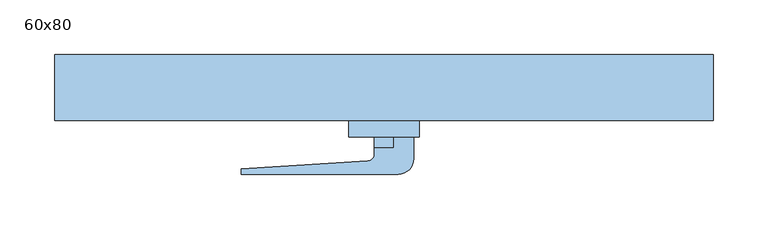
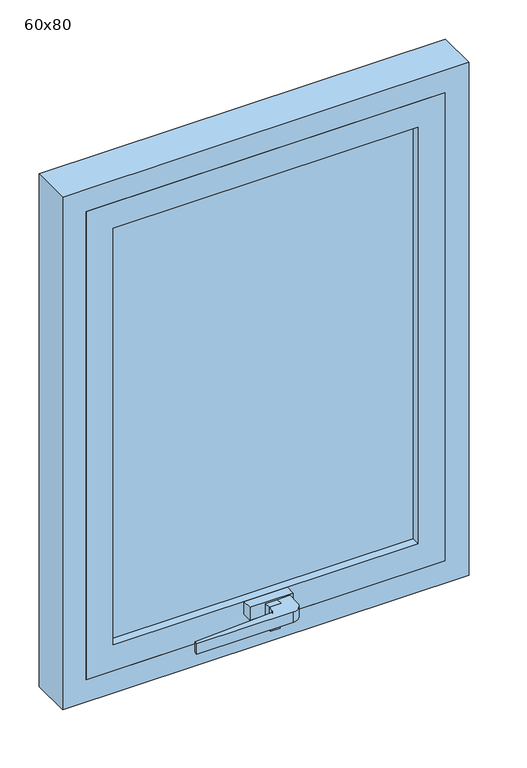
"""IFC4 building model written with IfcOpenShell, lengths in millimetres: window geometry, Janela Maxim-ar : 60x80."""

from ifc_helpers import new_model, si_unit, point, frame, frame_2d, origin, place, context, project, spatial, polyline, circle_curve, trimmed, segment, composite_curve, outline, extrude, source, transform, mapped, element, save


def window_60x80_c8c25e1d(model_context):
    return source(origin(), model_context, "Body", "SweptSolid", [
        extrude(outline(composite_curve([segment(polyline([(9.0, -28.0), (9.0, -18.0), (27.0, -18.0), (27.0, -38.0)]), True, "CONTINUOUS"), segment(trimmed(circle_curve(frame_2d((13.0, -38.0)), 14.0), [point((27.0, -38.0))], [point((13.0, -52.0))], False, "CARTESIAN"), True, "CONTINUOUS"), segment(polyline([(13.0, -52.0), (-130.0, -52.0), (-130.0, -47.0), (-14.6705919, -39.9888756)]), True, "CONTINUOUS"), segment(trimmed(circle_curve(frame_2d((-15.0369126, -33.9630874)), 6.0369126), [point((-14.6705919, -39.9888756))], [point((-9.0, -33.9630874))], True, "CARTESIAN"), True, "CONTINUOUS"), segment(polyline([(-9.0, -33.9630874), (-9.0, -28.0), (9.0, -28.0)]), True, "CONTINUOUS")], self_intersect=False)), frame((0.0, 0.0, 707.0), z_axis=(0.0, 0.0, 1.0), x_axis=(1.0, 0.0, 0.0)), (0.0, 0.0, 1.0), 16.0),
        extrude(outline(polyline([(723.0, 9.0), (723.0, -9.0), (703.0135985, -9.0), (685.0, -6.9842809), (685.0, 7.0348924), (703.0135985, 9.0), (723.0, 9.0)])), frame((0.0, -28.0, 0.0), z_axis=(0.0, 1.0, 0.0), x_axis=(0.0, 0.0, 1.0)), (0.0, 0.0, 1.0), 10.0),
        extrude(outline(polyline([(32.0, -18.0), (-32.0, -18.0), (-32.0, -3.0), (32.0, -3.0), (32.0, -18.0)])), frame((0.0, 0.0, 705.0), z_axis=(0.0, 0.0, 1.0), x_axis=(1.0, 0.0, 0.0)), (0.0, 0.0, 1.0), 20.0),
        extrude(outline(polyline([(225.0, 24.0), (225.0, 10.0), (-225.0, 10.0), (-225.0, 24.0), (225.0, 24.0)])), frame((0.0, 0.0, 725.0), z_axis=(0.0, 0.0, 1.0), x_axis=(1.0, 0.0, 0.0)), (0.0, 0.0, 1.0), 650.0),
        extrude(outline(polyline([(685.0, -265.0), (685.0, 265.0), (1415.0, 265.0), (1415.0, -265.0), (685.0, -265.0)]), holes=[polyline([(1375.0, -225.0), (1375.0, 225.0), (725.0, 225.0), (725.0, -225.0), (1375.0, -225.0)])]), frame((0.0, -3.0, 0.0), z_axis=(0.0, 1.0, 0.0), x_axis=(0.0, 0.0, 1.0)), (0.0, 0.0, 1.0), 40.0),
        extrude(outline(polyline([(650.0, -300.0), (650.0, 300.0), (1450.0, 300.0), (1450.0, -300.0), (650.0, -300.0)]), holes=[polyline([(1415.0, -265.0), (1415.0, 265.0), (685.0, 265.0), (685.0, -265.0), (1415.0, -265.0)])]), frame((0.0, -3.0, 0.0), z_axis=(0.0, 1.0, 0.0), x_axis=(0.0, 0.0, 1.0)), (0.0, 0.0, 1.0), 60.0),
    ])


if __name__ == "__main__":
    model = new_model("IFC4")
    model_context = context("Model", 3, world=origin())
    ifc_project = project(units=[si_unit("LENGTHUNIT", "METRE", prefix="MILLI")], contexts=[model_context])
    site = spatial("IfcSite", under=ifc_project)
    building = spatial("IfcBuilding", under=site)
    placement = place(None, origin())
    window_60x80_shape = window_60x80_c8c25e1d(model_context)
    element("IfcWindow", 1, ObjectType="Janela Maxim-ar : 60x80", at=placement, inside=building, context=model_context, shape_type="MappedRepresentation", body=[
        mapped(window_60x80_shape, transform((0.0, 0.0, 0.0), x_axis=(1.0, 0.0, 0.0), y_axis=(0.0, 1.0, 0.0), z_axis=(0.0, 0.0, 1.0))),
    ])
    save(model, "model.ifc")
